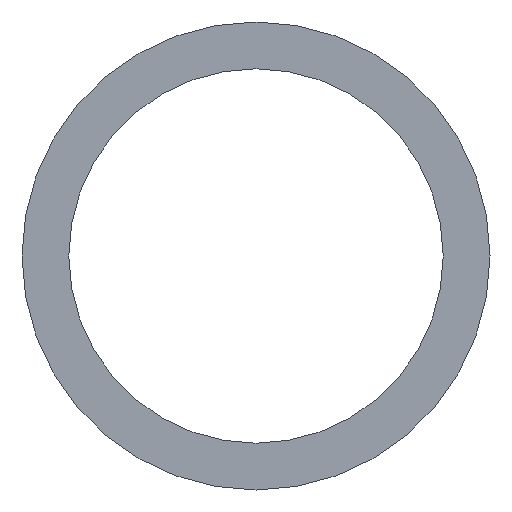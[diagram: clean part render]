
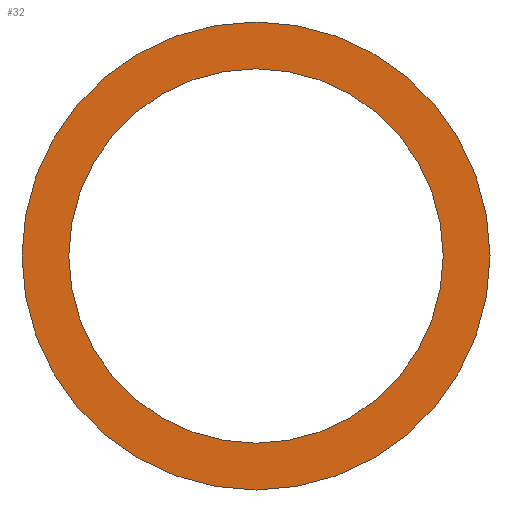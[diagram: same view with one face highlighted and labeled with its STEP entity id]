
A CAD part, left-side view. The second image highlights one B-rep face of the part: STEP entity #32.
In plain terms, the highlighted planar face has unit normal (-1, 0, 0).
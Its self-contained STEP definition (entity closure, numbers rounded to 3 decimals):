
#32 = ADVANCED_FACE( '', ( #61, #62 ), #63, .T. );
#61 = FACE_BOUND( '', #84, .T. );
#62 = FACE_OUTER_BOUND( '', #85, .T. );
#63 = PLANE( '', #86 );
#84 = EDGE_LOOP( '', ( #105 ) );
#85 = EDGE_LOOP( '', ( #106 ) );
#86 = AXIS2_PLACEMENT_3D( '', #107, #108, #109 );
#105 = ORIENTED_EDGE( '', *, *, #122, .T. );
#106 = ORIENTED_EDGE( '', *, *, #120, .F. );
#107 = CARTESIAN_POINT( '', ( 0., 25., 0. ) );
#108 = DIRECTION( '', ( -1., 0., 0. ) );
#109 = DIRECTION( '', ( 0., 0., 1. ) );
#120 = EDGE_CURVE( '', #130, #130, #131, .T. );
#122 = EDGE_CURVE( '', #133, #133, #134, .T. );
#130 = VERTEX_POINT( '', #142 );
#131 = CIRCLE( '', #143, 25. );
#133 = VERTEX_POINT( '', #145 );
#134 = CIRCLE( '', #146, 20. );
#142 = CARTESIAN_POINT( '', ( 0., 0., -25. ) );
#143 = AXIS2_PLACEMENT_3D( '', #154, #155, #156 );
#145 = CARTESIAN_POINT( '', ( 0., 0., -20. ) );
#146 = AXIS2_PLACEMENT_3D( '', #157, #158, #159 );
#154 = CARTESIAN_POINT( '', ( 0., 0., 0. ) );
#155 = DIRECTION( '', ( 1., 0., 0. ) );
#156 = DIRECTION( '', ( 0., 0., -1. ) );
#157 = CARTESIAN_POINT( '', ( 0., 0., 0. ) );
#158 = DIRECTION( '', ( 1., 0., 0. ) );
#159 = DIRECTION( '', ( 0., 0., -1. ) );
